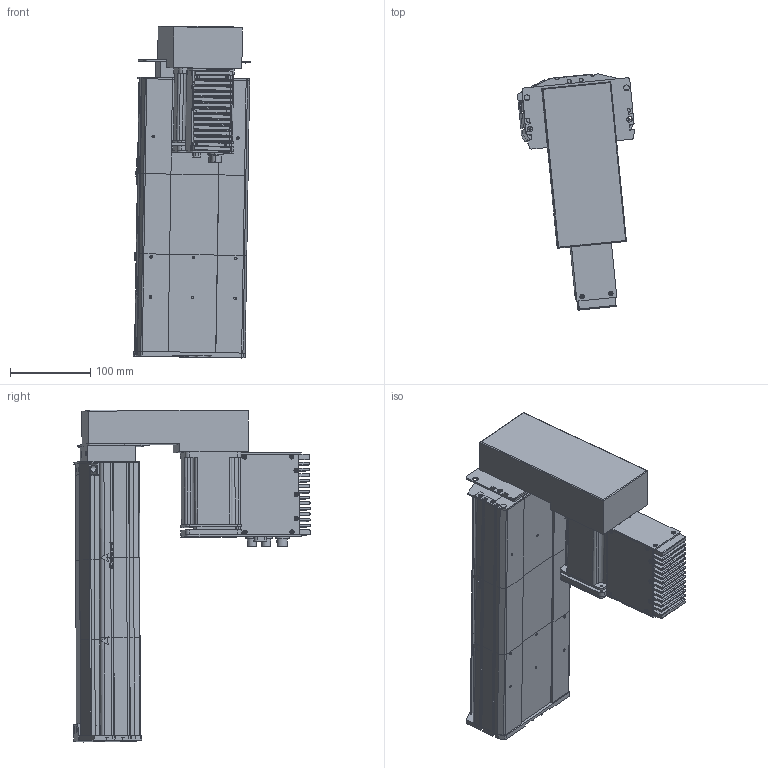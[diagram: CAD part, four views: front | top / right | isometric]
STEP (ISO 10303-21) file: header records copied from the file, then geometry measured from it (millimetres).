
FILE_DESCRIPTION (( 'STEP AP203' ), '1' );
FILE_NAME ('D14 TSH M4 BM L10 S100.STEP', '2012-10-11T12:13:28', ( '' ), ( '' ), 'SwSTEP 2.0', 'SolidWorks 2010', '' );
FILE_SCHEMA (( 'CONFIG_CONTROL_DESIGN' ));
Length unit declared in the file: millimetre
Products named in the file (23): plaque de bout head D14 BM; corp head D14_Default_2; T犨e contre le moteur_2; Sub D 9cts_2; Pièce29; plaque de  bout tail D14_Default_2; D14 TSH M4 BM L10 S100; plaque de  bout head D14 MD_Default_2; corpl tail D14_Default_2; couvercle D14_Default_2; Moteur_2; Connecteur rond D10 3cts_2; Tôle Arrière_2; Couvercle_2; Tôle latérale_2; Colonnette_2; Radiateur_2; Vis TF 3 torkx_2; couvercle D14 head_Default_2; T犨e fond_2; Connecteur rond D12 4cts_2; Moteur 70BLDC90A_2; Pièce26
Assembly tree (49 placements, depth 3):
  D14 TSH M4 BM L10 S100
    Moteur_2
      Vis TF 3 torkx_2  x26
      Colonnette_2
      Connecteur rond D10 3cts_2  x2
      Couvercle_2
      Tôle latérale_2  x2
      T犨e fond_2
      T犨e contre le moteur_2
      Sub D 9cts_2
      Moteur 70BLDC90A_2
      Radiateur_2
      Connecteur rond D12 4cts_2
      Tôle Arrière_2
    couvercle D14 head_Default_2
    corp head D14_Default_2
    plaque de  bout head D14 MD_Default_2
    plaque de  bout tail D14_Default_2
    corpl tail D14_Default_2
    Pièce29
    plaque de bout head D14 BM
    couvercle D14_Default_2
    Pièce26
Bounding box: 146.18 x 294.65 x 414.1 mm (x, y, z)
Volume: 2432025 mm3; surface area: 637755.5 mm2
Topology: 70 solids, 70 shells, 2406 faces, 6284 edges, 4142 vertices
Faces by surface type: plane 1297, cylinder 845, cone 134, bspline 130
Entity records: 65158 total; most frequent: CARTESIAN_POINT 20926, ORIENTED_EDGE 8622, DIRECTION 8253, EDGE_CURVE 4311, LINE 2879, VECTOR 2879, VERTEX_POINT 2848, AXIS2_PLACEMENT_3D 2687
